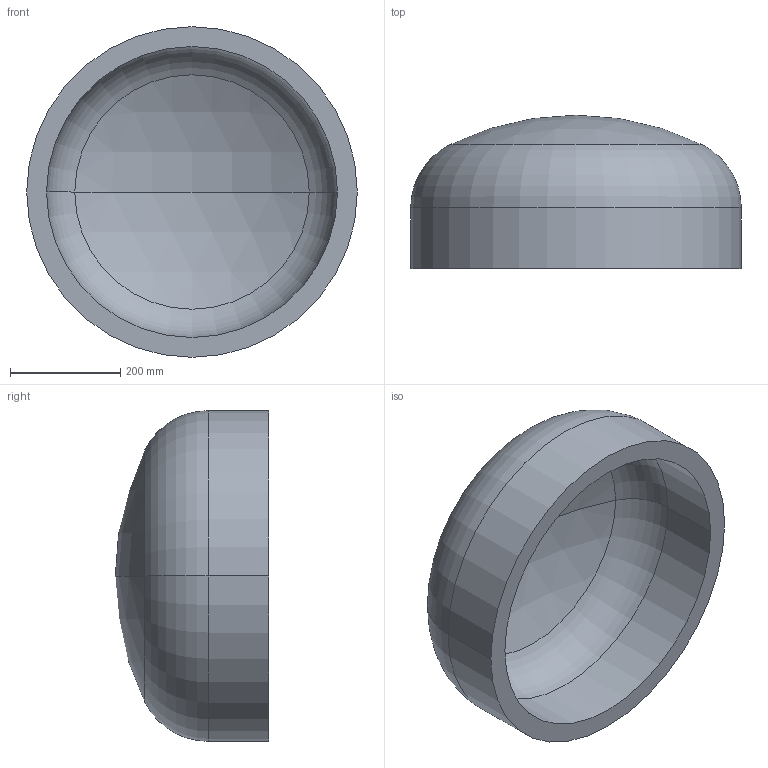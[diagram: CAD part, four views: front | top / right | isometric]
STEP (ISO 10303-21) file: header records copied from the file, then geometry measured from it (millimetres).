
FILE_DESCRIPTION (( 'STEP AP203' ), '1' );
FILE_NAME ('DIN 28013 Korbbogenform_-_Boden DIN 28013 - 600 x 110 - I - s=36.step', '2016-07-01T08:00:00', ( '' ), ( '' ), 'SwSTEP 2.0', 'SolidWorks 2013', '' );
FILE_SCHEMA (( 'CONFIG_CONTROL_DESIGN' ));
Length unit declared in the file: millimetre
Products named in the file (1): DIN 28013 Korbbogenform_-_Boden DIN 28013 - 600 x 110 - I - s=36
Bounding box: 600 x 278.21 x 600 mm (x, y, z)
Volume: 20064322.6 mm3; surface area: 1181185.6 mm2
Topology: 1 solids, 1 shells, 13 faces, 24 edges, 14 vertices
Faces by surface type: torus 4, cylinder 4, sphere 4, plane 1
Entity records: 407 total; most frequent: DIRECTION 72, CARTESIAN_POINT 52, ORIENTED_EDGE 48, AXIS2_PLACEMENT_3D 34, EDGE_CURVE 24, CIRCLE 20, VERTEX_POINT 14, EDGE_LOOP 14
